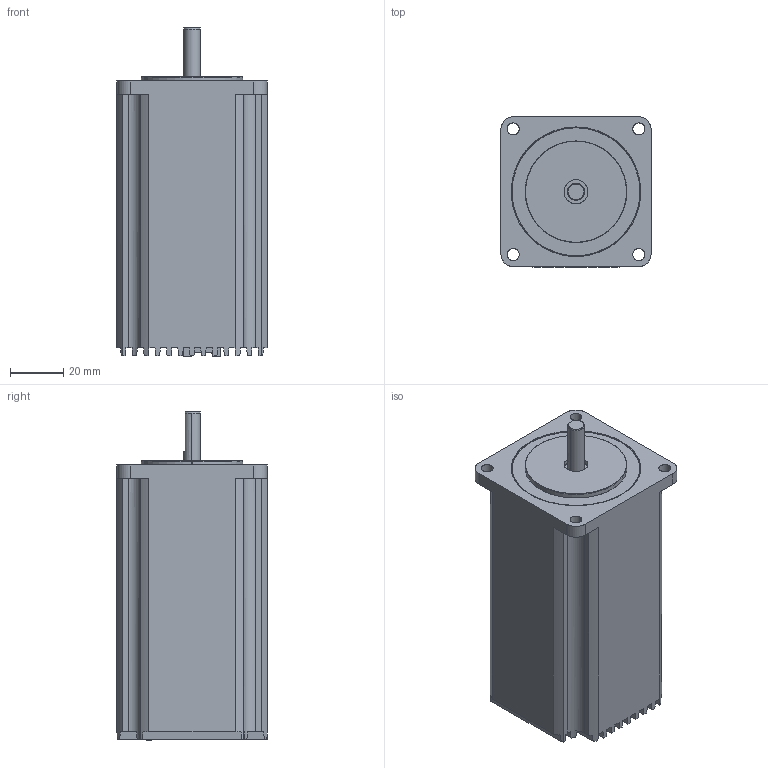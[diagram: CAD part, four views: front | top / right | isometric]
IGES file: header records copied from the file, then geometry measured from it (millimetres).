
Start section: SolidWorks IGES file using analytic representation for surfaces
Global section: file name: C:\Users\7666\Desktop\SSA-TR-56D3\SSA-TR-56D3\SSA-PRPR-56D5\SSA-PRPE-56D5ŠOŠÏ.IGS; native system: SolidWorks 2010; preprocessor: SolidWorks 2010; author: 7666; date: 140121.075720; units: millimetre
Bounding box: 56.4 x 56.4 x 123.3 mm (x, y, z)
Surface area: 32780.1 mm2 (no closed solid volume)
Topology: 0 solids, 0 shells, 547 faces, 3694 edges, 3694 vertices
Faces by surface type: bspline 468, revolution 79
